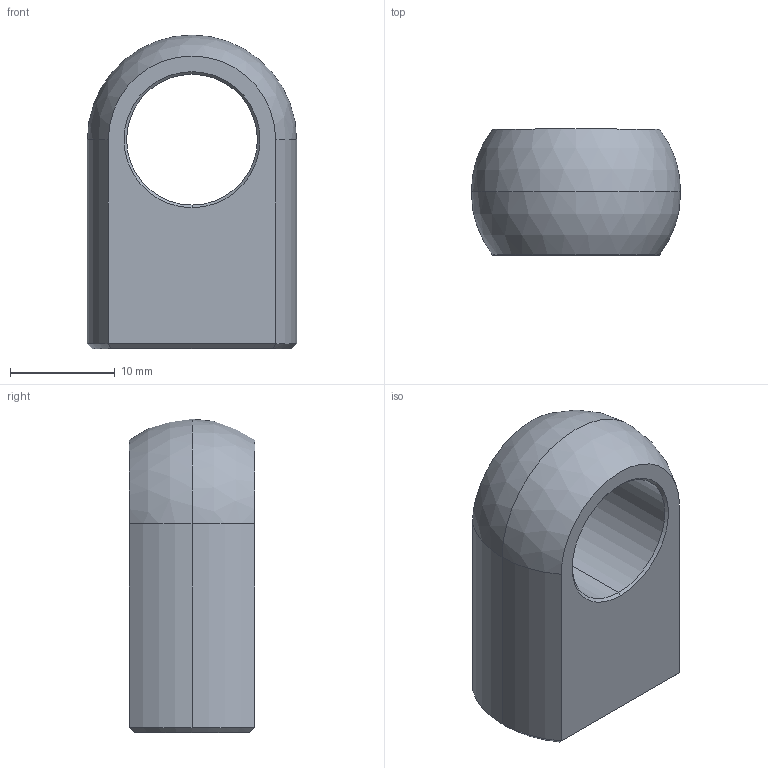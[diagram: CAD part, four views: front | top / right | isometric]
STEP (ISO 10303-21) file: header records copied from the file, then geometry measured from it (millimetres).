
FILE_DESCRIPTION (( 'STEP AP214' ), '1' );
FILE_NAME ('18.08A1L20G12.5.STEP', '2017-11-09T11:53:30', ( '' ), ( '' ), 'SwSTEP 2.0', 'SolidWorks 2016', '' );
FILE_SCHEMA (( 'AUTOMOTIVE_DESIGN' ));
Length unit declared in the file: millimetre
Products named in the file (1): 18.08A1L20G12.5
Bounding box: 20 x 12 x 30 mm (x, y, z)
Volume: 4278.6 mm3; surface area: 2367.4 mm2
Topology: 1 solids, 1 shells, 25 faces, 57 edges, 33 vertices
Faces by surface type: cone 11, cylinder 7, plane 5, sphere 2
Entity records: 732 total; most frequent: DIRECTION 132, CARTESIAN_POINT 126, ORIENTED_EDGE 110, EDGE_CURVE 55, AXIS2_PLACEMENT_3D 55, VERTEX_POINT 33, CIRCLE 29, EDGE_LOOP 28
